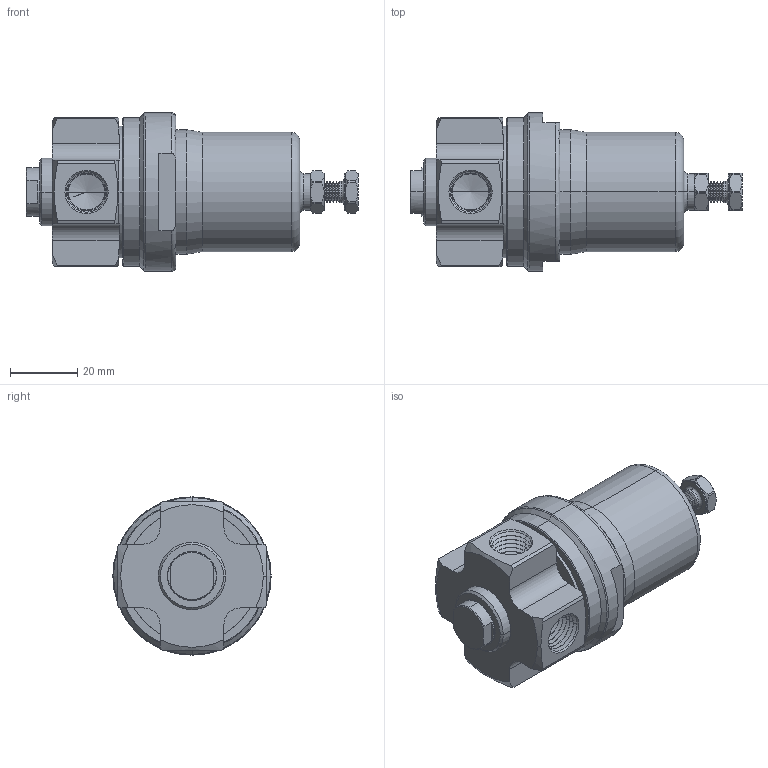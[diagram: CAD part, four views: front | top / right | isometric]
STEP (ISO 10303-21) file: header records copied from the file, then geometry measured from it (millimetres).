
FILE_DESCRIPTION (( 'STEP AP203' ), '1' );
FILE_NAME ('GEM-251.STEP', '2022-04-20T13:00:23', ( '' ), ( '' ), 'SwSTEP 2.0', 'SolidWorks 2020', '' );
FILE_SCHEMA (( 'CONFIG_CONTROL_DESIGN' ));
Length unit declared in the file: inch
Products named in the file (3): GEM-250.STEP; GEM-251; Part10^GEM-250-B-125_CM.STEP
Assembly tree (2 placements, depth 3):
  GEM-251
    GEM-250.STEP
      Part10^GEM-250-B-125_CM.STEP
Bounding box: 99.09 x 47.24 x 47.24 mm (x, y, z)
Volume: 90422.2 mm3; surface area: 16791 mm2
Topology: 1 solids, 1 shells, 396 faces, 900 edges, 513 vertices
Faces by surface type: cone 265, cylinder 68, plane 52, torus 11
Entity records: 11954 total; most frequent: CARTESIAN_POINT 2709, DIRECTION 2033, ORIENTED_EDGE 1788, EDGE_CURVE 894, AXIS2_PLACEMENT_3D 819, VERTEX_POINT 513, CIRCLE 417, EDGE_LOOP 409
